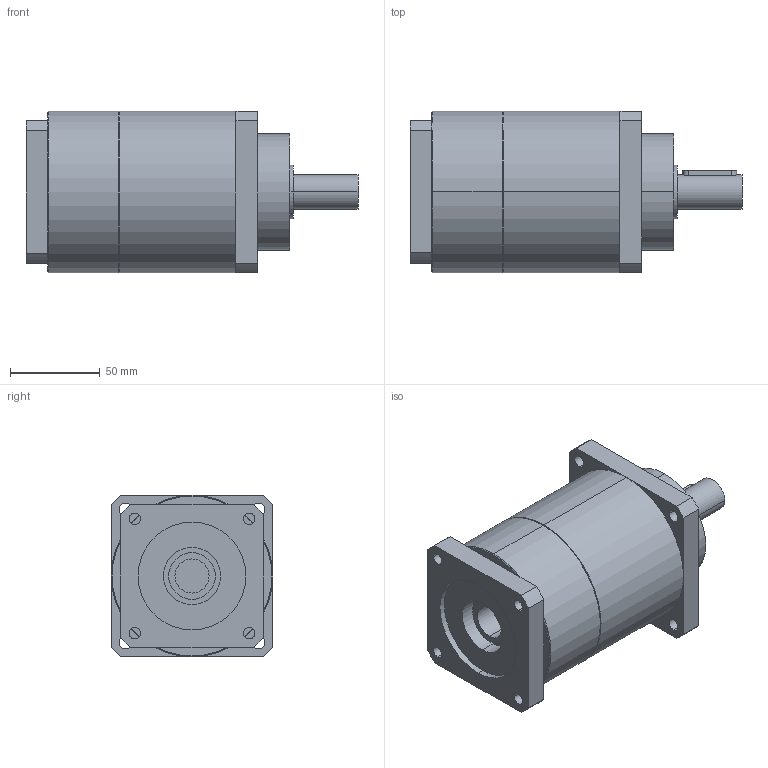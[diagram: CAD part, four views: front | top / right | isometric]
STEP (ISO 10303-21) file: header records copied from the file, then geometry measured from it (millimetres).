
FILE_DESCRIPTION(('CoCreate Modeling STEP Export'),'2;1');
FILE_NAME('GPT90_ig-9-12-16-20-25-28-35-40-50-70-100_19_B5T_19_P19.stp','2015-02-04T11:33:00',(''),(''),'CoCreate Modeling STEP processor for AP214 (Solid Model)','CoCreate Modeling 16.00C 25-Feb-2009 (C) Parametric Technology GmbH','');
FILE_SCHEMA(('AUTOMOTIVE_DESIGN { 1 0 10303 214 1 1 1 1 }'));
Length unit declared in the file: millimetre
Products named in the file (2): GPT90_ig-9-12-16-20-25-28-35-40-50-70-100_19_B5T_19_P19
Assembly tree (1 placements, depth 2):
  GPT90_ig-9-12-16-20-25-28-35-40-50-70-100_19_B5T_19_P19
    GPT90_ig-9-12-16-20-25-28-35-40-50-70-100_19_B5T_19_P19
Bounding box: 185 x 90 x 90 mm (x, y, z)
Volume: 883297.1 mm3; surface area: 66827.4 mm2
Topology: 1 solids, 1 shells, 88 faces, 237 edges, 156 vertices
Faces by surface type: cylinder 46, plane 38, cone 4
Entity records: 2783 total; most frequent: CARTESIAN_POINT 766, ORIENTED_EDGE 474, DIRECTION 338, EDGE_CURVE 237, VERTEX_POINT 156, AXIS2_PLACEMENT_3D 125, EDGE_LOOP 109, VECTOR 88
